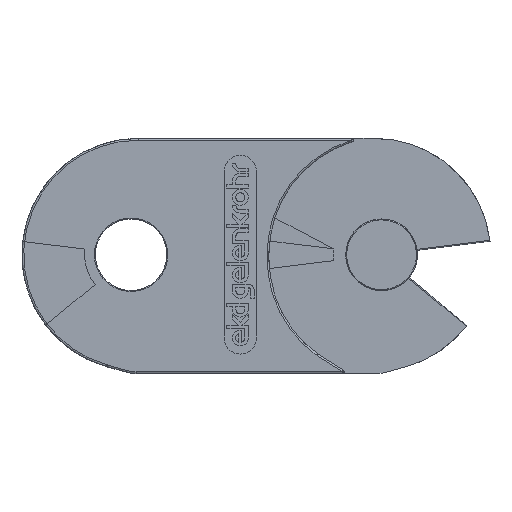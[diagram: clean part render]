
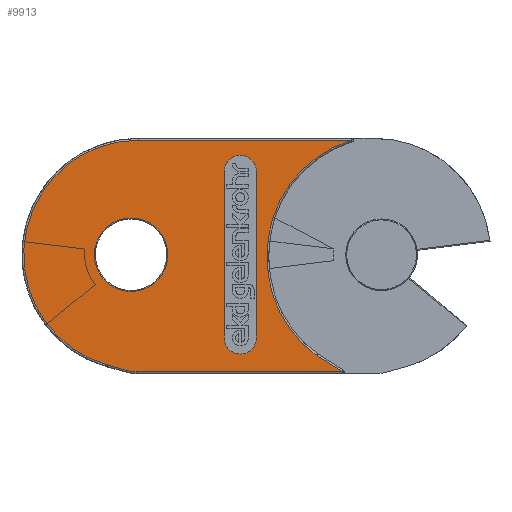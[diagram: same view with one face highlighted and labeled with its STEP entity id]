
A CAD part, left-side view. The second image highlights one B-rep face of the part: STEP entity #9913.
In plain terms, the highlighted free-form (B-spline) face has degree [1, 1] with [2, 2] control points.
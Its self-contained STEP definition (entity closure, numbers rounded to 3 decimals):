
#9424=CARTESIAN_POINT('',(202.368,175.854,195.0));
#9425=VERTEX_POINT('',#9424);
#9432=CARTESIAN_POINT('',(202.368,129.329,195.0));
#9433=VERTEX_POINT('',#9432);
#9434=CARTESIAN_POINT('',(202.368,129.329,195.0));
#9435=DIRECTION('',(0.0,1.0,0.0));
#9436=VECTOR('',#9435,46.525);
#9437=LINE('',#9434,#9436);
#9438=EDGE_CURVE('',#9433,#9425,#9437,.T.);
#9456=CARTESIAN_POINT('',(211.368,129.329,195.0));
#9457=VERTEX_POINT('',#9456);
#9458=CARTESIAN_POINT('',(206.868,129.329,195.0));
#9459=DIRECTION('',(0.0,0.0,-1.0));
#9460=DIRECTION('',(-1.0,0.0,0.0));
#9461=AXIS2_PLACEMENT_3D('',#9458,#9459,#9460);
#9462=CIRCLE('',#9461,4.5);
#9463=EDGE_CURVE('',#9457,#9433,#9462,.T.);
#9481=CARTESIAN_POINT('',(211.368,175.854,195.0));
#9482=VERTEX_POINT('',#9481);
#9483=CARTESIAN_POINT('',(211.368,175.854,195.0));
#9484=DIRECTION('',(0.0,-1.0,0.0));
#9485=VECTOR('',#9484,46.525);
#9486=LINE('',#9483,#9485);
#9487=EDGE_CURVE('',#9482,#9457,#9486,.T.);
#9505=CARTESIAN_POINT('',(206.868,175.854,195.0));
#9506=DIRECTION('',(0.0,0.0,-1.0));
#9507=DIRECTION('',(1.0,0.0,0.0));
#9508=AXIS2_PLACEMENT_3D('',#9505,#9506,#9507);
#9509=CIRCLE('',#9508,4.5);
#9510=EDGE_CURVE('',#9425,#9482,#9509,.T.);
#9821=CARTESIAN_POINT('',(175.781,185.291,195.0));
#9822=CARTESIAN_POINT('',(267.368,185.291,195.0));
#9823=CARTESIAN_POINT('',(175.781,120.591,195.0));
#9824=CARTESIAN_POINT('',(267.368,120.591,195.0));
#9825=B_SPLINE_SURFACE_WITH_KNOTS('',1,1,((#9821,#9823),(#9822,#9824)),.UNSPECIFIED.,.F.,.F.,.U.,(2,2),(2,2),(0.0,91.588),(0.0,64.7),.UNSPECIFIED.);
#9826=CARTESIAN_POINT('',(235.368,120.591,195.0));
#9827=VERTEX_POINT('',#9826);
#9828=CARTESIAN_POINT('',(244.039,183.394,195.0));
#9829=VERTEX_POINT('',#9828);
#9830=CARTESIAN_POINT('',(235.368,152.591,195.0));
#9831=DIRECTION('',(0.,0.,1.0));
#9832=DIRECTION('',(0.991,-0.137,0.));
#9833=AXIS2_PLACEMENT_3D('',#9830,#9831,#9832);
#9834=CIRCLE('',#9833,32.);
#9835=EDGE_CURVE('',#9827,#9829,#9834,.T.);
#9836=ORIENTED_EDGE('',*,*,#9835,.T.);
#9837=CARTESIAN_POINT('',(238.562,184.936,195.0));
#9838=VERTEX_POINT('',#9837);
#9839=CARTESIAN_POINT('',(244.039,183.394,195.0));
#9840=DIRECTION('',(-0.963,0.271,0.0));
#9841=VECTOR('',#9840,5.69);
#9842=LINE('',#9839,#9841);
#9843=EDGE_CURVE('',#9829,#9838,#9842,.T.);
#9844=ORIENTED_EDGE('',*,*,#9843,.T.);
#9845=CARTESIAN_POINT('',(235.988,185.291,195.0));
#9846=VERTEX_POINT('',#9845);
#9847=CARTESIAN_POINT('',(235.988,175.791,195.0));
#9848=DIRECTION('',(0.,0.,1.));
#9849=DIRECTION('',(0.137,0.991,0.));
#9850=AXIS2_PLACEMENT_3D('',#9847,#9848,#9849);
#9851=CIRCLE('',#9850,9.5);
#9852=EDGE_CURVE('',#9838,#9846,#9851,.T.);
#9853=ORIENTED_EDGE('',*,*,#9852,.T.);
#9854=CARTESIAN_POINT('',(178.367,185.291,195.0));
#9855=VERTEX_POINT('',#9854);
#9856=CARTESIAN_POINT('',(235.988,185.291,195.0));
#9857=DIRECTION('',(-1.0,0.0,0.0));
#9858=VECTOR('',#9857,57.621);
#9859=LINE('',#9856,#9858);
#9860=EDGE_CURVE('',#9846,#9855,#9859,.T.);
#9861=ORIENTED_EDGE('',*,*,#9860,.T.);
#9862=CARTESIAN_POINT('',(185.373,180.828,195.));
#9863=VERTEX_POINT('',#9862);
#9864=CARTESIAN_POINT('',(178.367,185.291,195.0));
#9865=DIRECTION('',(0.843,-0.537,0.));
#9866=VECTOR('',#9865,8.308);
#9867=LINE('',#9864,#9866);
#9868=EDGE_CURVE('',#9855,#9863,#9867,.T.);
#9869=ORIENTED_EDGE('',*,*,#9868,.T.);
#9870=CARTESIAN_POINT('',(199.365,153.091,195.));
#9871=VERTEX_POINT('',#9870);
#9872=CARTESIAN_POINT('',(165.868,153.591,195.0));
#9873=DIRECTION('',(0.,0.,-1.0));
#9874=DIRECTION('',(0.893,0.45,0.));
#9875=AXIS2_PLACEMENT_3D('',#9872,#9873,#9874);
#9876=CIRCLE('',#9875,33.5);
#9877=EDGE_CURVE('',#9863,#9871,#9876,.T.);
#9878=ORIENTED_EDGE('',*,*,#9877,.T.);
#9879=CARTESIAN_POINT('',(175.781,120.591,195.0));
#9880=VERTEX_POINT('',#9879);
#9881=CARTESIAN_POINT('',(165.868,152.591,195.0));
#9882=DIRECTION('',(0.,0.,-1.));
#9883=DIRECTION('',(0.809,-0.587,0.));
#9884=AXIS2_PLACEMENT_3D('',#9881,#9882,#9883);
#9885=CIRCLE('',#9884,33.5);
#9886=EDGE_CURVE('',#9871,#9880,#9885,.T.);
#9887=ORIENTED_EDGE('',*,*,#9886,.T.);
#9888=CARTESIAN_POINT('',(175.781,120.591,195.0));
#9889=DIRECTION('',(1.0,0.0,0.0));
#9890=VECTOR('',#9889,59.588);
#9891=LINE('',#9888,#9890);
#9892=EDGE_CURVE('',#9880,#9827,#9891,.T.);
#9893=ORIENTED_EDGE('',*,*,#9892,.T.);
#9894=EDGE_LOOP('',(#9836,#9844,#9853,#9861,#9869,#9878,#9887,#9893));
#9895=FACE_OUTER_BOUND('',#9894,.T.);
#9896=CARTESIAN_POINT('',(247.618,152.591,195.0));
#9897=VERTEX_POINT('',#9896);
#9898=CARTESIAN_POINT('',(237.368,152.591,195.0));
#9899=DIRECTION('',(0.0,0.0,-1.0));
#9900=DIRECTION('',(-1.0,0.0,0.0));
#9901=AXIS2_PLACEMENT_3D('',#9898,#9899,#9900);
#9902=CIRCLE('',#9901,10.25);
#9903=EDGE_CURVE('',#9897,#9897,#9902,.T.);
#9904=ORIENTED_EDGE('',*,*,#9903,.T.);
#9905=EDGE_LOOP('',(#9904));
#9906=FACE_BOUND('',#9905,.T.);
#9907=ORIENTED_EDGE('',*,*,#9438,.T.);
#9908=ORIENTED_EDGE('',*,*,#9510,.T.);
#9909=ORIENTED_EDGE('',*,*,#9487,.T.);
#9910=ORIENTED_EDGE('',*,*,#9463,.T.);
#9911=EDGE_LOOP('',(#9907,#9908,#9909,#9910));
#9912=FACE_BOUND('',#9911,.T.);
#9913=ADVANCED_FACE('',(#9895,#9906,#9912),#9825,.F.);
